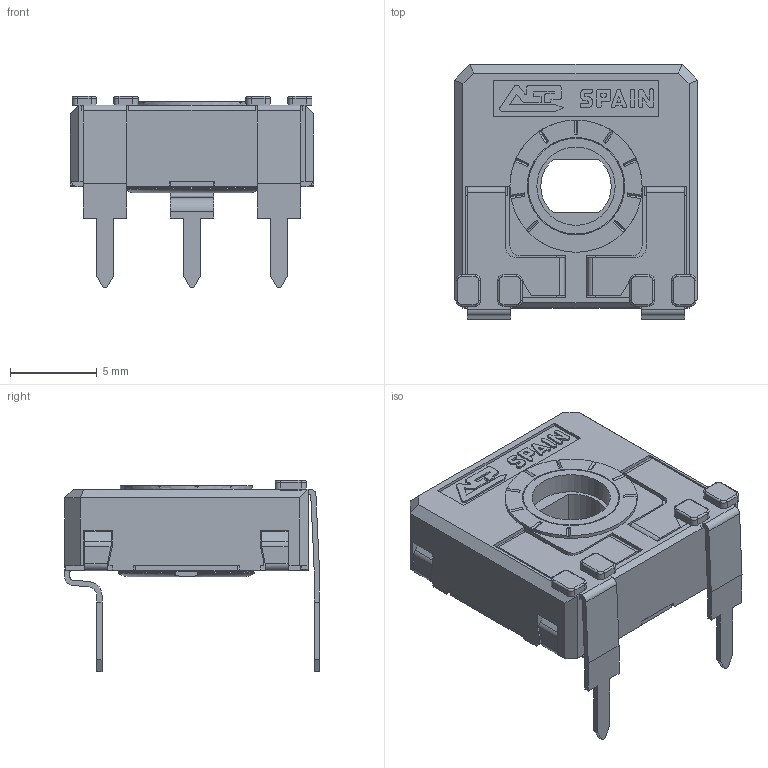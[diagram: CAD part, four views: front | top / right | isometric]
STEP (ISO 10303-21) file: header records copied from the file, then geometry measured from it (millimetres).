
FILE_DESCRIPTION(/* description */ (''),/* implementation_level */ '2;1');
FILE_NAME(/* name */ 'C:\Users\CEM\Desktop\ENVIAR\TRANSICION 3D CATALOGOS\RS14NV12,5.stp',/* time_stamp */ '2025-12-10T11:21:42+01:00',/* author */ ('CEM'),/* organization */ (''),/* preprocessor_version */ 'ST-DEVELOPER v16.13',/* originating_system */ 'Autodesk Inventor 2018',/* authorisation */ '');
FILE_SCHEMA (('AUTOMOTIVE_DESIGN { 1 0 10303 214 3 1 1 }'));
Length unit declared in the file: millimetre
Products named in the file (1): CARCASA CA14 PGA
Bounding box: 14 x 14.65 x 11 mm (x, y, z)
Volume: 527 mm3; surface area: 1476.4 mm2
Topology: 1 solids, 1 shells, 679 faces, 1914 edges, 1232 vertices
Faces by surface type: plane 499, cylinder 143, torus 23, bspline 8, cone 6
Full cylindrical faces by diameter (mm): 4.5 x1, 5.5 x1, 5.6 x1, 5.752 x1, 6.8 x1, 7.6 x1
Entity records: 22041 total; most frequent: CARTESIAN_POINT 4020, ORIENTED_EDGE 3800, DIRECTION 3588, EDGE_CURVE 1900, LINE 1500, VECTOR 1500, VERTEX_POINT 1228, AXIS2_PLACEMENT_3D 1044
